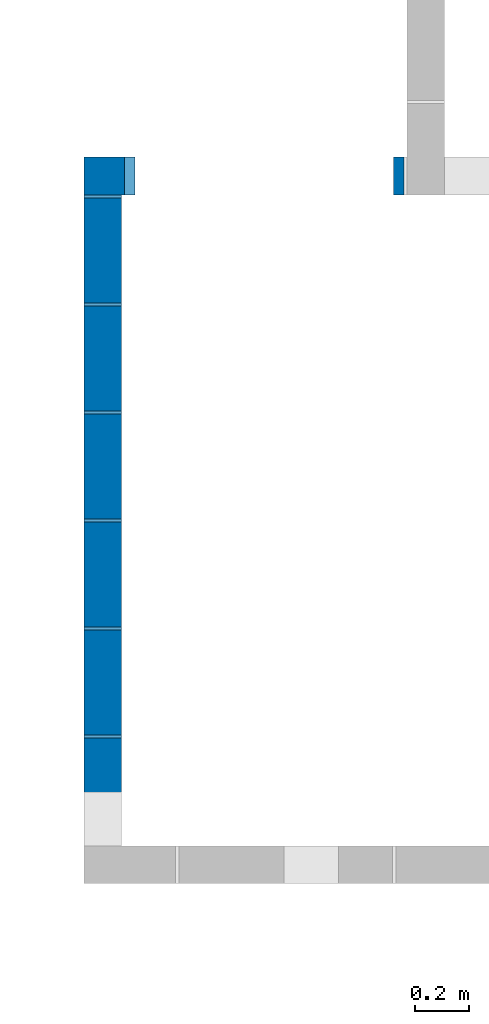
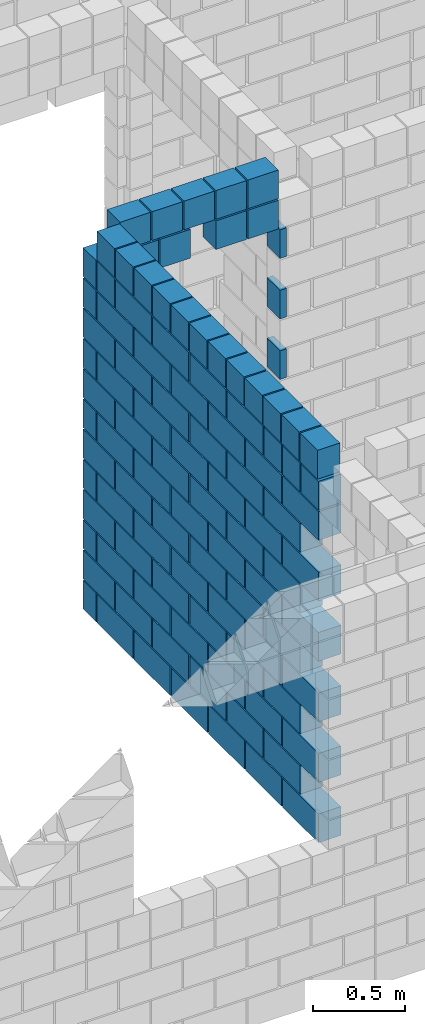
# One storey, part 4 of 12: 4 walls.
"""IFC4 building model written with IfcOpenShell, lengths in centimetres."""

from ifc_helpers import new_model, si_unit, derived_unit, frame, origin, origin_with_axes, origin_2d_with_axis, place, context, project, spatial, rectangle, extrude, element, save


model = new_model("IFC4")

# Units and contexts
model_context = context("Model", 3, precision=1e-05, world=origin_with_axes(), identifier="Body")
ifc_project = project(units=[si_unit("LENGTHUNIT", "METRE", prefix="CENTI"), si_unit("VOLUMEUNIT", "CUBIC_METRE"), si_unit("AREAUNIT", "SQUARE_METRE"), si_unit("POWERUNIT", "WATT"), si_unit("LUMINOUSFLUXUNIT", "LUMEN"), si_unit("ELECTRICCURRENTUNIT", "AMPERE"), si_unit("PRESSUREUNIT", "PASCAL", prefix="KILO"), si_unit("MASSUNIT", "GRAM", prefix="KILO"), si_unit("PLANEANGLEUNIT", "RADIAN"), derived_unit("VOLUMETRICFLOWRATEUNIT", [(si_unit("LENGTHUNIT", "METRE"), 3), (si_unit("TIMEUNIT", "SECOND"), -1)])], contexts=[model_context])

# Site, building, storey
site_placement = place(None, origin_with_axes())
site = spatial("IfcSite", under=ifc_project, at=site_placement)
building_placement = place(site_placement, origin())
building = spatial("IfcBuilding", under=site, at=building_placement)
storey_placement = place(building_placement, origin_with_axes())
storey = spatial("IfcBuildingStorey", under=building, at=storey_placement, Name="PISO", CompositionType="ELEMENT", Elevation=0.0)

# Walls
wall_1_placement = place(storey_placement, frame((286.5, 371.01, 239.0), z_axis=(0.0, 0.0, 1.0), x_axis=(1.0, 0.0, 0.0)))
element("IfcWall", 1, at=wall_1_placement, inside=storey, context=model_context, shape_type="SolidModel", body=[
    extrude(rectangle(XDim=19.0, YDim=14.0, at=origin_2d_with_axis()), frame((0.0, 10.0, -239.0), z_axis=(0.0, 0.0, 1.0), x_axis=(1.0, 0.0, 0.0)), (0.0, 0.0, 1.0), 19.0),
    extrude(rectangle(XDim=34.0, YDim=14.0, at=origin_2d_with_axis()), frame((-2.5, 0.0, -219.0), z_axis=(0.0, 0.0, 1.0), x_axis=(0.0, -1.0, 0.0)), (0.0, 0.0, 1.0), 19.0),
    extrude(rectangle(XDim=19.0, YDim=14.0, at=origin_2d_with_axis()), frame((0.0, 10.0, -199.0), z_axis=(0.0, 0.0, 1.0), x_axis=(1.0, 0.0, 0.0)), (0.0, 0.0, 1.0), 19.0),
    extrude(rectangle(XDim=34.0, YDim=14.0, at=origin_2d_with_axis()), frame((-2.5, 0.0, -179.0), z_axis=(0.0, 0.0, 1.0), x_axis=(0.0, -1.0, 0.0)), (0.0, 0.0, 1.0), 19.0),
    extrude(rectangle(XDim=19.0, YDim=14.0, at=origin_2d_with_axis()), frame((0.0, 10.0, -159.0), z_axis=(0.0, 0.0, 1.0), x_axis=(1.0, 0.0, 0.0)), (0.0, 0.0, 1.0), 19.0),
    extrude(rectangle(XDim=34.0, YDim=14.0, at=origin_2d_with_axis()), frame((-2.5, 0.0, -139.0), z_axis=(0.0, 0.0, 1.0), x_axis=(0.0, -1.0, 0.0)), (0.0, 0.0, 1.0), 19.0),
    extrude(rectangle(XDim=19.0, YDim=14.0, at=origin_2d_with_axis()), frame((0.0, 10.0, -119.0), z_axis=(0.0, 0.0, 1.0), x_axis=(1.0, 0.0, 0.0)), (0.0, 0.0, 1.0), 19.0),
    extrude(rectangle(XDim=34.0, YDim=14.0, at=origin_2d_with_axis()), frame((-2.5, 0.0, -99.0), z_axis=(0.0, 0.0, 1.0), x_axis=(0.0, -1.0, 0.0)), (0.0, 0.0, 1.0), 19.0),
    extrude(rectangle(XDim=19.0, YDim=14.0, at=origin_2d_with_axis()), frame((0.0, 10.0, -79.0), z_axis=(0.0, 0.0, 1.0), x_axis=(1.0, 0.0, 0.0)), (0.0, 0.0, 1.0), 19.0),
    extrude(rectangle(XDim=34.0, YDim=14.0, at=origin_2d_with_axis()), frame((-2.5, 0.0, -59.0), z_axis=(0.0, 0.0, 1.0), x_axis=(0.0, -1.0, 0.0)), (0.0, 0.0, 1.0), 19.0),
    extrude(rectangle(XDim=19.0, YDim=14.0, at=origin_2d_with_axis()), frame((0.0, 10.0, -39.0), z_axis=(0.0, 0.0, 1.0), x_axis=(1.0, 0.0, 0.0)), (0.0, 0.0, 1.0), 19.0),
    extrude(rectangle(XDim=19.0, YDim=14.0, at=origin_2d_with_axis()), frame((0.0, 10.0, -19.0), z_axis=(0.0, 0.0, 1.0), x_axis=(1.0, 0.0, 0.0)), (0.0, 0.0, 1.0), 19.0),
])
wall_2_placement = place(storey_placement, frame((284.0, 243.07714285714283, 259.0), z_axis=(0.0, 0.0, 1.0), x_axis=(1.0, 0.0, 0.0)))
element("IfcWall", 2, at=wall_2_placement, inside=storey, Name="PAR-PISO-12", context=model_context, shape_type="SolidModel", body=[
    extrude(rectangle(XDim=39.0, YDim=14.0, at=origin_2d_with_axis()), frame((0.0, 70.1442857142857, -259.0), z_axis=(0.0, 0.0, 1.0), x_axis=(0.0, -1.0, 0.0)), (0.0, 0.0, 1.0), 19.0),
    extrude(rectangle(XDim=39.0, YDim=14.0, at=origin_2d_with_axis()), frame((0.0, 30.0, -259.0), z_axis=(0.0, 0.0, 1.0), x_axis=(0.0, -1.0, 0.0)), (0.0, 0.0, 1.0), 19.0),
    extrude(rectangle(XDim=39.0, YDim=14.0, at=origin_2d_with_axis()), frame((0.0, -10.1442857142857, -259.0), z_axis=(0.0, 0.0, 1.0), x_axis=(0.0, -1.0, 0.0)), (0.0, 0.0, 1.0), 19.0),
    extrude(rectangle(XDim=39.0, YDim=14.0, at=origin_2d_with_axis()), frame((0.0, -50.28857142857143, -259.0), z_axis=(0.0, 0.0, 1.0), x_axis=(0.0, -1.0, 0.0)), (0.0, 0.0, 1.0), 19.0),
    extrude(rectangle(XDim=39.0, YDim=14.0, at=origin_2d_with_axis()), frame((0.0, -90.43285714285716, -259.0), z_axis=(0.0, 0.0, 1.0), x_axis=(0.0, -1.0, 0.0)), (0.0, 0.0, 1.0), 19.0),
    extrude(rectangle(XDim=39.0, YDim=14.0, at=origin_2d_with_axis()), frame((0.0, 90.26452380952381, -239.0), z_axis=(0.0, 0.0, 1.0), x_axis=(0.0, -1.0, 0.0)), (0.0, 0.0, 1.0), 19.0),
    extrude(rectangle(XDim=39.0, YDim=14.0, at=origin_2d_with_axis()), frame((0.0, 50.096190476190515, -239.0), z_axis=(0.0, 0.0, 1.0), x_axis=(0.0, -1.0, 0.0)), (0.0, 0.0, 1.0), 19.0),
    extrude(rectangle(XDim=39.0, YDim=14.0, at=origin_2d_with_axis()), frame((0.0, 9.927857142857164, -239.0), z_axis=(0.0, 0.0, 1.0), x_axis=(0.0, -1.0, 0.0)), (0.0, 0.0, 1.0), 19.0),
    extrude(rectangle(XDim=39.0, YDim=14.0, at=origin_2d_with_axis()), frame((0.0, -30.24047619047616, -239.0), z_axis=(0.0, 0.0, 1.0), x_axis=(0.0, -1.0, 0.0)), (0.0, 0.0, 1.0), 19.0),
    extrude(rectangle(XDim=39.0, YDim=14.0, at=origin_2d_with_axis()), frame((0.0, -70.40880952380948, -239.0), z_axis=(0.0, 0.0, 1.0), x_axis=(0.0, -1.0, 0.0)), (0.0, 0.0, 1.0), 19.0),
    extrude(rectangle(XDim=39.0, YDim=14.0, at=origin_2d_with_axis()), frame((0.0, 70.1442857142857, -219.0), z_axis=(0.0, 0.0, 1.0), x_axis=(0.0, -1.0, 0.0)), (0.0, 0.0, 1.0), 19.0),
    extrude(rectangle(XDim=39.0, YDim=14.0, at=origin_2d_with_axis()), frame((0.0, 30.0, -219.0), z_axis=(0.0, 0.0, 1.0), x_axis=(0.0, -1.0, 0.0)), (0.0, 0.0, 1.0), 19.0),
    extrude(rectangle(XDim=39.0, YDim=14.0, at=origin_2d_with_axis()), frame((0.0, -10.1442857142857, -219.0), z_axis=(0.0, 0.0, 1.0), x_axis=(0.0, -1.0, 0.0)), (0.0, 0.0, 1.0), 19.0),
    extrude(rectangle(XDim=39.0, YDim=14.0, at=origin_2d_with_axis()), frame((0.0, -50.28857142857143, -219.0), z_axis=(0.0, 0.0, 1.0), x_axis=(0.0, -1.0, 0.0)), (0.0, 0.0, 1.0), 19.0),
    extrude(rectangle(XDim=39.0, YDim=14.0, at=origin_2d_with_axis()), frame((0.0, -90.43285714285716, -219.0), z_axis=(0.0, 0.0, 1.0), x_axis=(0.0, -1.0, 0.0)), (0.0, 0.0, 1.0), 19.0),
    extrude(rectangle(XDim=39.0, YDim=14.0, at=origin_2d_with_axis()), frame((0.0, 90.26452380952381, -199.0), z_axis=(0.0, 0.0, 1.0), x_axis=(0.0, -1.0, 0.0)), (0.0, 0.0, 1.0), 19.0),
    extrude(rectangle(XDim=39.0, YDim=14.0, at=origin_2d_with_axis()), frame((0.0, 50.096190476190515, -199.0), z_axis=(0.0, 0.0, 1.0), x_axis=(0.0, -1.0, 0.0)), (0.0, 0.0, 1.0), 19.0),
    extrude(rectangle(XDim=39.0, YDim=14.0, at=origin_2d_with_axis()), frame((0.0, 9.927857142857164, -199.0), z_axis=(0.0, 0.0, 1.0), x_axis=(0.0, -1.0, 0.0)), (0.0, 0.0, 1.0), 19.0),
    extrude(rectangle(XDim=39.0, YDim=14.0, at=origin_2d_with_axis()), frame((0.0, -30.24047619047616, -199.0), z_axis=(0.0, 0.0, 1.0), x_axis=(0.0, -1.0, 0.0)), (0.0, 0.0, 1.0), 19.0),
    extrude(rectangle(XDim=39.0, YDim=14.0, at=origin_2d_with_axis()), frame((0.0, -70.40880952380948, -199.0), z_axis=(0.0, 0.0, 1.0), x_axis=(0.0, -1.0, 0.0)), (0.0, 0.0, 1.0), 19.0),
    extrude(rectangle(XDim=39.0, YDim=14.0, at=origin_2d_with_axis()), frame((0.0, 70.1442857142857, -179.0), z_axis=(0.0, 0.0, 1.0), x_axis=(0.0, -1.0, 0.0)), (0.0, 0.0, 1.0), 19.0),
    extrude(rectangle(XDim=39.0, YDim=14.0, at=origin_2d_with_axis()), frame((0.0, 30.0, -179.0), z_axis=(0.0, 0.0, 1.0), x_axis=(0.0, -1.0, 0.0)), (0.0, 0.0, 1.0), 19.0),
    extrude(rectangle(XDim=39.0, YDim=14.0, at=origin_2d_with_axis()), frame((0.0, -10.1442857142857, -179.0), z_axis=(0.0, 0.0, 1.0), x_axis=(0.0, -1.0, 0.0)), (0.0, 0.0, 1.0), 19.0),
    extrude(rectangle(XDim=39.0, YDim=14.0, at=origin_2d_with_axis()), frame((0.0, -50.28857142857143, -179.0), z_axis=(0.0, 0.0, 1.0), x_axis=(0.0, -1.0, 0.0)), (0.0, 0.0, 1.0), 19.0),
    extrude(rectangle(XDim=39.0, YDim=14.0, at=origin_2d_with_axis()), frame((0.0, -90.43285714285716, -179.0), z_axis=(0.0, 0.0, 1.0), x_axis=(0.0, -1.0, 0.0)), (0.0, 0.0, 1.0), 19.0),
    extrude(rectangle(XDim=39.0, YDim=14.0, at=origin_2d_with_axis()), frame((0.0, 90.26452380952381, -159.0), z_axis=(0.0, 0.0, 1.0), x_axis=(0.0, -1.0, 0.0)), (0.0, 0.0, 1.0), 19.0),
    extrude(rectangle(XDim=39.0, YDim=14.0, at=origin_2d_with_axis()), frame((0.0, 50.096190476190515, -159.0), z_axis=(0.0, 0.0, 1.0), x_axis=(0.0, -1.0, 0.0)), (0.0, 0.0, 1.0), 19.0),
    extrude(rectangle(XDim=39.0, YDim=14.0, at=origin_2d_with_axis()), frame((0.0, 9.927857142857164, -159.0), z_axis=(0.0, 0.0, 1.0), x_axis=(0.0, -1.0, 0.0)), (0.0, 0.0, 1.0), 19.0),
    extrude(rectangle(XDim=39.0, YDim=14.0, at=origin_2d_with_axis()), frame((0.0, -30.24047619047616, -159.0), z_axis=(0.0, 0.0, 1.0), x_axis=(0.0, -1.0, 0.0)), (0.0, 0.0, 1.0), 19.0),
    extrude(rectangle(XDim=39.0, YDim=14.0, at=origin_2d_with_axis()), frame((0.0, -70.40880952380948, -159.0), z_axis=(0.0, 0.0, 1.0), x_axis=(0.0, -1.0, 0.0)), (0.0, 0.0, 1.0), 19.0),
    extrude(rectangle(XDim=39.0, YDim=14.0, at=origin_2d_with_axis()), frame((0.0, 70.1442857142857, -139.0), z_axis=(0.0, 0.0, 1.0), x_axis=(0.0, -1.0, 0.0)), (0.0, 0.0, 1.0), 19.0),
    extrude(rectangle(XDim=39.0, YDim=14.0, at=origin_2d_with_axis()), frame((0.0, 30.0, -139.0), z_axis=(0.0, 0.0, 1.0), x_axis=(0.0, -1.0, 0.0)), (0.0, 0.0, 1.0), 19.0),
    extrude(rectangle(XDim=39.0, YDim=14.0, at=origin_2d_with_axis()), frame((0.0, -10.1442857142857, -139.0), z_axis=(0.0, 0.0, 1.0), x_axis=(0.0, -1.0, 0.0)), (0.0, 0.0, 1.0), 19.0),
    extrude(rectangle(XDim=39.0, YDim=14.0, at=origin_2d_with_axis()), frame((0.0, -50.28857142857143, -139.0), z_axis=(0.0, 0.0, 1.0), x_axis=(0.0, -1.0, 0.0)), (0.0, 0.0, 1.0), 19.0),
    extrude(rectangle(XDim=39.0, YDim=14.0, at=origin_2d_with_axis()), frame((0.0, -90.43285714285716, -139.0), z_axis=(0.0, 0.0, 1.0), x_axis=(0.0, -1.0, 0.0)), (0.0, 0.0, 1.0), 19.0),
    extrude(rectangle(XDim=39.0, YDim=14.0, at=origin_2d_with_axis()), frame((0.0, 90.26452380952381, -119.0), z_axis=(0.0, 0.0, 1.0), x_axis=(0.0, -1.0, 0.0)), (0.0, 0.0, 1.0), 19.0),
    extrude(rectangle(XDim=39.0, YDim=14.0, at=origin_2d_with_axis()), frame((0.0, 50.096190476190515, -119.0), z_axis=(0.0, 0.0, 1.0), x_axis=(0.0, -1.0, 0.0)), (0.0, 0.0, 1.0), 19.0),
    extrude(rectangle(XDim=39.0, YDim=14.0, at=origin_2d_with_axis()), frame((0.0, 9.927857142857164, -119.0), z_axis=(0.0, 0.0, 1.0), x_axis=(0.0, -1.0, 0.0)), (0.0, 0.0, 1.0), 19.0),
    extrude(rectangle(XDim=39.0, YDim=14.0, at=origin_2d_with_axis()), frame((0.0, -30.24047619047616, -119.0), z_axis=(0.0, 0.0, 1.0), x_axis=(0.0, -1.0, 0.0)), (0.0, 0.0, 1.0), 19.0),
    extrude(rectangle(XDim=39.0, YDim=14.0, at=origin_2d_with_axis()), frame((0.0, -70.40880952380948, -119.0), z_axis=(0.0, 0.0, 1.0), x_axis=(0.0, -1.0, 0.0)), (0.0, 0.0, 1.0), 19.0),
    extrude(rectangle(XDim=39.0, YDim=14.0, at=origin_2d_with_axis()), frame((0.0, 70.1442857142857, -99.0), z_axis=(0.0, 0.0, 1.0), x_axis=(0.0, -1.0, 0.0)), (0.0, 0.0, 1.0), 19.0),
    extrude(rectangle(XDim=39.0, YDim=14.0, at=origin_2d_with_axis()), frame((0.0, 30.0, -99.0), z_axis=(0.0, 0.0, 1.0), x_axis=(0.0, -1.0, 0.0)), (0.0, 0.0, 1.0), 19.0),
    extrude(rectangle(XDim=39.0, YDim=14.0, at=origin_2d_with_axis()), frame((0.0, -10.1442857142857, -99.0), z_axis=(0.0, 0.0, 1.0), x_axis=(0.0, -1.0, 0.0)), (0.0, 0.0, 1.0), 19.0),
    extrude(rectangle(XDim=39.0, YDim=14.0, at=origin_2d_with_axis()), frame((0.0, -50.28857142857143, -99.0), z_axis=(0.0, 0.0, 1.0), x_axis=(0.0, -1.0, 0.0)), (0.0, 0.0, 1.0), 19.0),
    extrude(rectangle(XDim=39.0, YDim=14.0, at=origin_2d_with_axis()), frame((0.0, -90.43285714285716, -99.0), z_axis=(0.0, 0.0, 1.0), x_axis=(0.0, -1.0, 0.0)), (0.0, 0.0, 1.0), 19.0),
    extrude(rectangle(XDim=39.0, YDim=14.0, at=origin_2d_with_axis()), frame((0.0, 90.26452380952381, -79.0), z_axis=(0.0, 0.0, 1.0), x_axis=(0.0, -1.0, 0.0)), (0.0, 0.0, 1.0), 19.0),
    extrude(rectangle(XDim=39.0, YDim=14.0, at=origin_2d_with_axis()), frame((0.0, 50.096190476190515, -79.0), z_axis=(0.0, 0.0, 1.0), x_axis=(0.0, -1.0, 0.0)), (0.0, 0.0, 1.0), 19.0),
    extrude(rectangle(XDim=39.0, YDim=14.0, at=origin_2d_with_axis()), frame((0.0, 9.927857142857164, -79.0), z_axis=(0.0, 0.0, 1.0), x_axis=(0.0, -1.0, 0.0)), (0.0, 0.0, 1.0), 19.0),
    extrude(rectangle(XDim=39.0, YDim=14.0, at=origin_2d_with_axis()), frame((0.0, -30.24047619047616, -79.0), z_axis=(0.0, 0.0, 1.0), x_axis=(0.0, -1.0, 0.0)), (0.0, 0.0, 1.0), 19.0),
    extrude(rectangle(XDim=39.0, YDim=14.0, at=origin_2d_with_axis()), frame((0.0, -70.40880952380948, -79.0), z_axis=(0.0, 0.0, 1.0), x_axis=(0.0, -1.0, 0.0)), (0.0, 0.0, 1.0), 19.0),
    extrude(rectangle(XDim=39.0, YDim=14.0, at=origin_2d_with_axis()), frame((0.0, 70.1442857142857, -59.0), z_axis=(0.0, 0.0, 1.0), x_axis=(0.0, -1.0, 0.0)), (0.0, 0.0, 1.0), 19.0),
    extrude(rectangle(XDim=39.0, YDim=14.0, at=origin_2d_with_axis()), frame((0.0, 30.0, -59.0), z_axis=(0.0, 0.0, 1.0), x_axis=(0.0, -1.0, 0.0)), (0.0, 0.0, 1.0), 19.0),
    extrude(rectangle(XDim=39.0, YDim=14.0, at=origin_2d_with_axis()), frame((0.0, -10.1442857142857, -59.0), z_axis=(0.0, 0.0, 1.0), x_axis=(0.0, -1.0, 0.0)), (0.0, 0.0, 1.0), 19.0),
    extrude(rectangle(XDim=39.0, YDim=14.0, at=origin_2d_with_axis()), frame((0.0, -50.28857142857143, -59.0), z_axis=(0.0, 0.0, 1.0), x_axis=(0.0, -1.0, 0.0)), (0.0, 0.0, 1.0), 19.0),
    extrude(rectangle(XDim=39.0, YDim=14.0, at=origin_2d_with_axis()), frame((0.0, -90.43285714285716, -59.0), z_axis=(0.0, 0.0, 1.0), x_axis=(0.0, -1.0, 0.0)), (0.0, 0.0, 1.0), 19.0),
    extrude(rectangle(XDim=39.0, YDim=14.0, at=origin_2d_with_axis()), frame((0.0, 90.26452380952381, -39.0), z_axis=(0.0, 0.0, 1.0), x_axis=(0.0, -1.0, 0.0)), (0.0, 0.0, 1.0), 19.0),
    extrude(rectangle(XDim=39.0, YDim=14.0, at=origin_2d_with_axis()), frame((0.0, 50.096190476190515, -39.0), z_axis=(0.0, 0.0, 1.0), x_axis=(0.0, -1.0, 0.0)), (0.0, 0.0, 1.0), 19.0),
    extrude(rectangle(XDim=39.0, YDim=14.0, at=origin_2d_with_axis()), frame((0.0, 9.927857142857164, -39.0), z_axis=(0.0, 0.0, 1.0), x_axis=(0.0, -1.0, 0.0)), (0.0, 0.0, 1.0), 19.0),
    extrude(rectangle(XDim=39.0, YDim=14.0, at=origin_2d_with_axis()), frame((0.0, -30.24047619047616, -39.0), z_axis=(0.0, 0.0, 1.0), x_axis=(0.0, -1.0, 0.0)), (0.0, 0.0, 1.0), 19.0),
    extrude(rectangle(XDim=19.0, YDim=14.0, at=origin_2d_with_axis()), frame((0.0, -60.40880952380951, -39.0), z_axis=(0.0, 0.0, 1.0), x_axis=(0.0, -1.0, 0.0)), (0.0, 0.0, 1.0), 19.0),
    extrude(rectangle(XDim=19.0, YDim=14.0, at=origin_2d_with_axis()), frame((0.0, -80.40880952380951, -39.0), z_axis=(0.0, 0.0, 1.0), x_axis=(0.0, -1.0, 0.0)), (0.0, 0.0, 1.0), 19.0),
    extrude(rectangle(XDim=19.0, YDim=14.0, at=origin_2d_with_axis()), frame((0.0, -100.40880952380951, -39.0), z_axis=(0.0, 0.0, 1.0), x_axis=(0.0, -1.0, 0.0)), (0.0, 0.0, 1.0), 19.0),
    extrude(rectangle(XDim=19.0, YDim=14.0, at=origin_2d_with_axis()), frame((0.0, 100.43285714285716, -19.0), z_axis=(0.0, 0.0, 1.0), x_axis=(0.0, -1.0, 0.0)), (0.0, 0.0, 1.0), 19.0),
    extrude(rectangle(XDim=19.0, YDim=14.0, at=origin_2d_with_axis()), frame((0.0, 80.43285714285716, -19.0), z_axis=(0.0, 0.0, 1.0), x_axis=(0.0, -1.0, 0.0)), (0.0, 0.0, 1.0), 19.0),
    extrude(rectangle(XDim=19.0, YDim=14.0, at=origin_2d_with_axis()), frame((0.0, 60.43285714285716, -19.0), z_axis=(0.0, 0.0, 1.0), x_axis=(0.0, -1.0, 0.0)), (0.0, 0.0, 1.0), 19.0),
    extrude(rectangle(XDim=19.0, YDim=14.0, at=origin_2d_with_axis()), frame((0.0, 40.43285714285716, -19.0), z_axis=(0.0, 0.0, 1.0), x_axis=(0.0, -1.0, 0.0)), (0.0, 0.0, 1.0), 19.0),
    extrude(rectangle(XDim=19.0, YDim=14.0, at=origin_2d_with_axis()), frame((0.0, 20.43285714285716, -19.0), z_axis=(0.0, 0.0, 1.0), x_axis=(0.0, -1.0, 0.0)), (0.0, 0.0, 1.0), 19.0),
    extrude(rectangle(XDim=19.0, YDim=14.0, at=origin_2d_with_axis()), frame((0.0, 0.432857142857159, -19.0), z_axis=(0.0, 0.0, 1.0), x_axis=(0.0, -1.0, 0.0)), (0.0, 0.0, 1.0), 19.0),
    extrude(rectangle(XDim=19.0, YDim=14.0, at=origin_2d_with_axis()), frame((0.0, -19.56714285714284, -19.0), z_axis=(0.0, 0.0, 1.0), x_axis=(0.0, -1.0, 0.0)), (0.0, 0.0, 1.0), 19.0),
    extrude(rectangle(XDim=19.0, YDim=14.0, at=origin_2d_with_axis()), frame((0.0, -39.56714285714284, -19.0), z_axis=(0.0, 0.0, 1.0), x_axis=(0.0, -1.0, 0.0)), (0.0, 0.0, 1.0), 19.0),
    extrude(rectangle(XDim=19.0, YDim=14.0, at=origin_2d_with_axis()), frame((0.0, -59.56714285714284, -19.0), z_axis=(0.0, 0.0, 1.0), x_axis=(0.0, -1.0, 0.0)), (0.0, 0.0, 1.0), 19.0),
    extrude(rectangle(XDim=19.0, YDim=14.0, at=origin_2d_with_axis()), frame((0.0, -79.56714285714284, -19.0), z_axis=(0.0, 0.0, 1.0), x_axis=(0.0, -1.0, 0.0)), (0.0, 0.0, 1.0), 19.0),
    extrude(rectangle(XDim=19.0, YDim=14.0, at=origin_2d_with_axis()), frame((0.0, -99.56714285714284, -19.0), z_axis=(0.0, 0.0, 1.0), x_axis=(0.0, -1.0, 0.0)), (0.0, 0.0, 1.0), 19.0),
])
wall_3_placement = place(storey_placement, frame((284.0, 353.4378571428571, 259.0), z_axis=(0.0, 0.0, 1.0), x_axis=(1.0, 0.0, 0.0)))
element("IfcWall", 3, at=wall_3_placement, inside=storey, Name="PAR-PISO-12", context=model_context, shape_type="SolidModel", body=[
    extrude(rectangle(XDim=39.0, YDim=14.0, at=origin_2d_with_axis()), frame((0.0, -0.072142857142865, -259.0), z_axis=(0.0, 0.0, 1.0), x_axis=(0.0, -1.0, 0.0)), (0.0, 0.0, 1.0), 19.0),
    extrude(rectangle(XDim=39.0, YDim=14.0, at=origin_2d_with_axis()), frame((0.0, -0.072142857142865, -219.0), z_axis=(0.0, 0.0, 1.0), x_axis=(0.0, -1.0, 0.0)), (0.0, 0.0, 1.0), 19.0),
    extrude(rectangle(XDim=39.0, YDim=14.0, at=origin_2d_with_axis()), frame((0.0, -0.072142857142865, -179.0), z_axis=(0.0, 0.0, 1.0), x_axis=(0.0, -1.0, 0.0)), (0.0, 0.0, 1.0), 19.0),
    extrude(rectangle(XDim=39.0, YDim=14.0, at=origin_2d_with_axis()), frame((0.0, -0.072142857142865, -139.0), z_axis=(0.0, 0.0, 1.0), x_axis=(0.0, -1.0, 0.0)), (0.0, 0.0, 1.0), 19.0),
    extrude(rectangle(XDim=39.0, YDim=14.0, at=origin_2d_with_axis()), frame((0.0, -0.072142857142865, -99.0), z_axis=(0.0, 0.0, 1.0), x_axis=(0.0, -1.0, 0.0)), (0.0, 0.0, 1.0), 19.0),
    extrude(rectangle(XDim=39.0, YDim=14.0, at=origin_2d_with_axis()), frame((0.0, -0.072142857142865, -59.0), z_axis=(0.0, 0.0, 1.0), x_axis=(0.0, -1.0, 0.0)), (0.0, 0.0, 1.0), 19.0),
    extrude(rectangle(XDim=19.0, YDim=14.0, at=origin_2d_with_axis()), frame((0.0, 10.072142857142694, -39.0), z_axis=(0.0, 0.0, 1.0), x_axis=(0.0, -1.0, 0.0)), (0.0, 0.0, 1.0), 19.0),
    extrude(rectangle(XDim=19.0, YDim=14.0, at=origin_2d_with_axis()), frame((0.0, 10.072142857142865, -19.0), z_axis=(0.0, 0.0, 1.0), x_axis=(0.0, -1.0, 0.0)), (0.0, 0.0, 1.0), 19.0),
])
wall_4_placement = place(storey_placement, frame((344.005, 381.01, 259.0), z_axis=(0.0, 0.0, 1.0), x_axis=(1.0, 0.0, 0.0)))
element("IfcWall", 4, at=wall_4_placement, inside=storey, Name="PAR-PISO-6", context=model_context, shape_type="SolidModel", body=[
    extrude(rectangle(XDim=4.0, YDim=14.0, at=origin_2d_with_axis()), frame((50.005, 0.0, -259.0), z_axis=(0.0, 0.0, 1.0), x_axis=(1.0, 0.0, 0.0)), (0.0, 0.0, 1.0), 19.0),
    extrude(rectangle(XDim=4.0, YDim=14.0, at=origin_2d_with_axis()), frame((-50.005, 0.0, -239.0), z_axis=(0.0, 0.0, 1.0), x_axis=(1.0, 0.0, 0.0)), (0.0, 0.0, 1.0), 19.0),
    extrude(rectangle(XDim=4.0, YDim=14.0, at=origin_2d_with_axis()), frame((50.005, 0.0, -219.0), z_axis=(0.0, 0.0, 1.0), x_axis=(1.0, 0.0, 0.0)), (0.0, 0.0, 1.0), 19.0),
    extrude(rectangle(XDim=4.0, YDim=14.0, at=origin_2d_with_axis()), frame((-50.005, 0.0, -199.0), z_axis=(0.0, 0.0, 1.0), x_axis=(1.0, 0.0, 0.0)), (0.0, 0.0, 1.0), 19.0),
    extrude(rectangle(XDim=4.0, YDim=14.0, at=origin_2d_with_axis()), frame((50.005, 0.0, -179.0), z_axis=(0.0, 0.0, 1.0), x_axis=(1.0, 0.0, 0.0)), (0.0, 0.0, 1.0), 19.0),
    extrude(rectangle(XDim=4.0, YDim=14.0, at=origin_2d_with_axis()), frame((-50.005, 0.0, -159.0), z_axis=(0.0, 0.0, 1.0), x_axis=(1.0, 0.0, 0.0)), (0.0, 0.0, 1.0), 19.0),
    extrude(rectangle(XDim=4.0, YDim=14.0, at=origin_2d_with_axis()), frame((50.005, 0.0, -139.0), z_axis=(0.0, 0.0, 1.0), x_axis=(1.0, 0.0, 0.0)), (0.0, 0.0, 1.0), 19.0),
    extrude(rectangle(XDim=4.0, YDim=14.0, at=origin_2d_with_axis()), frame((-50.005, 0.0, -119.0), z_axis=(0.0, 0.0, 1.0), x_axis=(1.0, 0.0, 0.0)), (0.0, 0.0, 1.0), 19.0),
    extrude(rectangle(XDim=4.0, YDim=14.0, at=origin_2d_with_axis()), frame((50.005, 0.0, -99.0), z_axis=(0.0, 0.0, 1.0), x_axis=(1.0, 0.0, 0.0)), (0.0, 0.0, 1.0), 19.0),
    extrude(rectangle(XDim=4.0, YDim=14.0, at=origin_2d_with_axis()), frame((-50.005, 0.0, -79.0), z_axis=(0.0, 0.0, 1.0), x_axis=(1.0, 0.0, 0.0)), (0.0, 0.0, 1.0), 19.0),
    extrude(rectangle(XDim=4.0, YDim=14.0, at=origin_2d_with_axis()), frame((50.005, 0.0, -59.0), z_axis=(0.0, 0.0, 1.0), x_axis=(1.0, 0.0, 0.0)), (0.0, 0.0, 1.0), 19.0),
    extrude(rectangle(XDim=19.0, YDim=14.0, at=origin_2d_with_axis()), frame((-37.505, 0.0, -39.0), z_axis=(0.0, 0.0, 1.0), x_axis=(1.0, 0.0, 0.0)), (0.0, 0.0, 1.0), 19.0),
    extrude(rectangle(XDim=19.0, YDim=14.0, at=origin_2d_with_axis()), frame((-17.505, 0.0, -39.0), z_axis=(0.0, 0.0, 1.0), x_axis=(1.0, 0.0, 0.0)), (0.0, 0.0, 1.0), 19.0),
    extrude(rectangle(XDim=19.0, YDim=14.0, at=origin_2d_with_axis()), frame((17.505, 0.0, -39.0), z_axis=(0.0, 0.0, 1.0), x_axis=(1.0, 0.0, 0.0)), (0.0, 0.0, 1.0), 19.0),
    extrude(rectangle(XDim=19.0, YDim=14.0, at=origin_2d_with_axis()), frame((37.505, 0.0, -39.0), z_axis=(0.0, 0.0, 1.0), x_axis=(1.0, 0.0, 0.0)), (0.0, 0.0, 1.0), 19.0),
    extrude(rectangle(XDim=19.0, YDim=14.0, at=origin_2d_with_axis()), frame((-42.505, 0.0, -19.0), z_axis=(0.0, 0.0, 1.0), x_axis=(1.0, 0.0, 0.0)), (0.0, 0.0, 1.0), 19.0),
    extrude(rectangle(XDim=19.0, YDim=14.0, at=origin_2d_with_axis()), frame((-22.505, 0.0, -19.0), z_axis=(0.0, 0.0, 1.0), x_axis=(1.0, 0.0, 0.0)), (0.0, 0.0, 1.0), 19.0),
    extrude(rectangle(XDim=19.0, YDim=14.0, at=origin_2d_with_axis()), frame((-2.505, 0.0, -19.0), z_axis=(0.0, 0.0, 1.0), x_axis=(1.0, 0.0, 0.0)), (0.0, 0.0, 1.0), 19.0),
    extrude(rectangle(XDim=19.0, YDim=14.0, at=origin_2d_with_axis()), frame((17.495, 0.0, -19.0), z_axis=(0.0, 0.0, 1.0), x_axis=(1.0, 0.0, 0.0)), (0.0, 0.0, 1.0), 19.0),
    extrude(rectangle(XDim=19.0, YDim=14.0, at=origin_2d_with_axis()), frame((37.495, 0.0, -19.0), z_axis=(0.0, 0.0, 1.0), x_axis=(1.0, 0.0, 0.0)), (0.0, 0.0, 1.0), 19.0),
])

save(model, "model.ifc")
